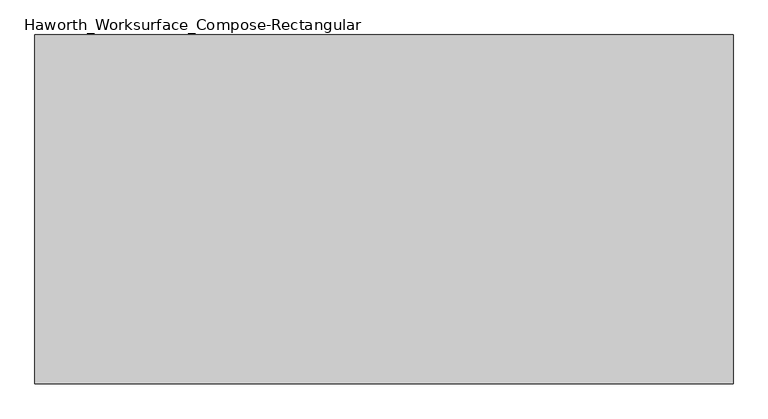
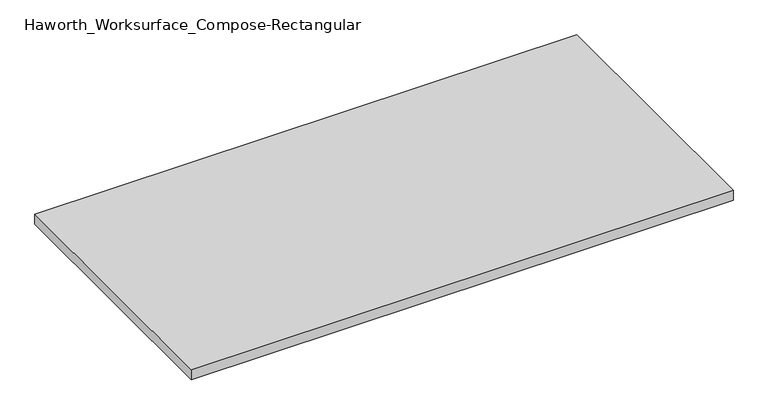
"""IFC4 building model written with IfcOpenShell, lengths in millimetres: furniture geometry, Haworth_Worksurface_Compose-Rectangular : 30'' x 60''."""

from ifc_helpers import new_model, si_unit, frame, origin, place, context, project, spatial, polyline, outline, extrude, source, transform, mapped, element, save


def haworth_worksurface_compose_rectangular_7adb6efa(model_context):
    return source(origin(), model_context, "Body", "SweptSolid", [
        extrude(outline(polyline([(762.0, 381.0), (762.0, -381.0), (-762.0, -381.0), (-762.0, 381.0), (762.0, 381.0)])), frame((0.0, 0.0, 706.4375), z_axis=(0.0, 0.0, 1.0), x_axis=(1.0, 0.0, 0.0)), (0.0, 0.0, 1.0), 30.1625),
    ])


if __name__ == "__main__":
    model = new_model("IFC4")
    model_context = context("Model", 3, world=origin())
    ifc_project = project(units=[si_unit("LENGTHUNIT", "METRE", prefix="MILLI")], contexts=[model_context])
    site = spatial("IfcSite", under=ifc_project)
    building = spatial("IfcBuilding", under=site)
    placement = place(None, origin())
    haworth_worksurface_compose_rectangular_shape = haworth_worksurface_compose_rectangular_7adb6efa(model_context)
    element("IfcFurniture", 1, ObjectType="Haworth_Worksurface_Compose-Rectangular : 30'' x 60''", at=placement, inside=building, context=model_context, shape_type="MappedRepresentation", body=[
        mapped(haworth_worksurface_compose_rectangular_shape, transform((0.0, 0.0, 0.0), x_axis=(1.0, 0.0, 0.0), y_axis=(0.0, 1.0, 0.0), z_axis=(0.0, 0.0, 1.0))),
    ])
    save(model, "model.ifc")
